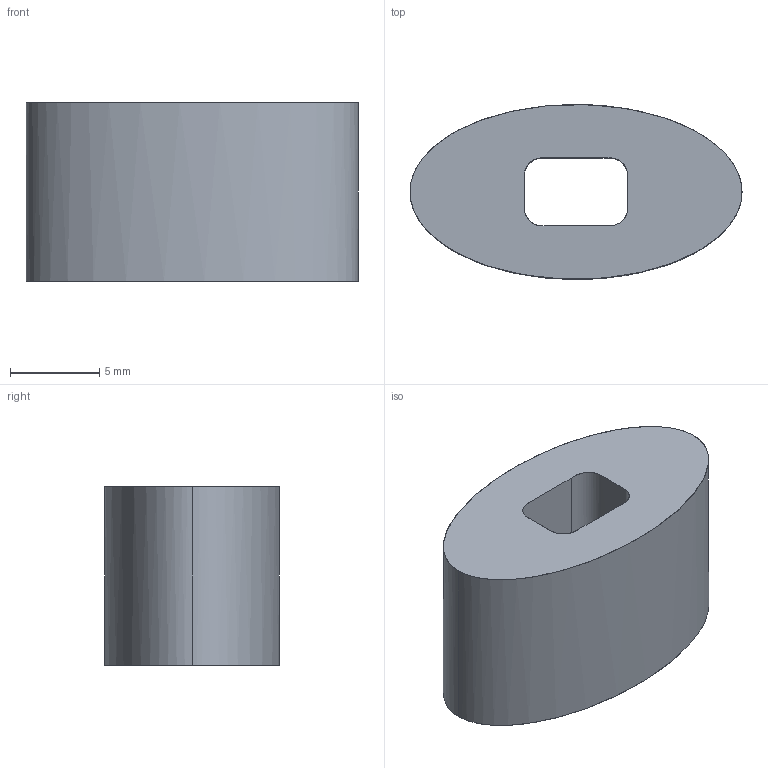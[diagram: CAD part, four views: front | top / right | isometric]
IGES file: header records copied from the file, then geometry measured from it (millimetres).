
Start section: SolidWorks IGES file using analytic representation for surfaces
Global section: file name: C:\Users\Kamkarian\Desktop\PowerFeedEllipse101810.IGS; native system: SolidWorks 2016; preprocessor: SolidWorks 2016; author: Kamkarian; date: 180617.030013; units: millimetre
Bounding box: 18.6 x 9.8 x 10 mm (x, y, z)
Surface area: 875.7 mm2 (no closed solid volume)
Topology: 0 solids, 0 shells, 6 faces, 204 edges, 204 vertices
Faces by surface type: bspline 6
